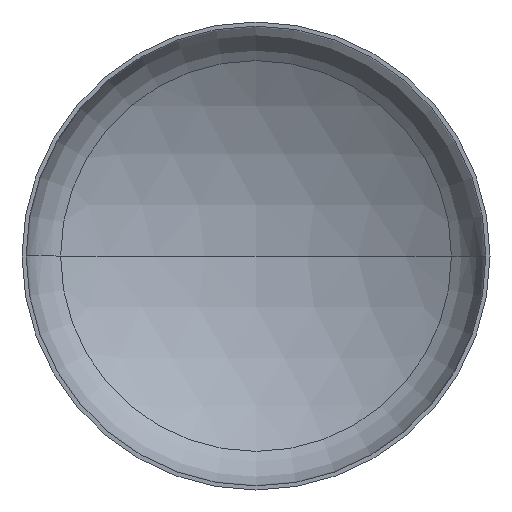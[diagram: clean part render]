
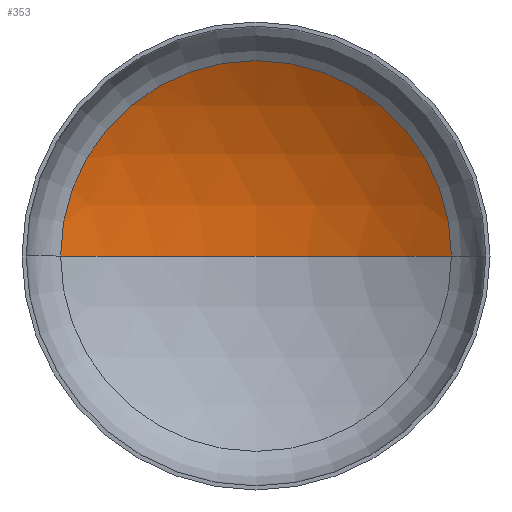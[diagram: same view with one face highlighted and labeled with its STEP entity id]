
A CAD part, front view. The second image highlights one B-rep face of the part: STEP entity #353.
In plain terms, the highlighted spherical face has radius 6000 mm.
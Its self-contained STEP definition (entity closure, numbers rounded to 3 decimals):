
#1 = AXIS2_PLACEMENT_3D ( 'NONE', #259, #283, #261 ) ;
#15 = VERTEX_POINT ( 'NONE', #195 ) ;
#43 = CARTESIAN_POINT ( 'NONE',  ( 0., -4012.576, 0. ) ) ;
#44 = ORIENTED_EDGE ( 'NONE', *, *, #167, .T. ) ;
#48 = ORIENTED_EDGE ( 'NONE', *, *, #170, .T. ) ;
#86 = VERTEX_POINT ( 'NONE', #218 ) ;
#97 = EDGE_LOOP ( 'NONE', ( #102, #48, #44 ) ) ;
#102 = ORIENTED_EDGE ( 'NONE', *, *, #172, .F. ) ;
#103 = VERTEX_POINT ( 'NONE', #156 ) ;
#112 = AXIS2_PLACEMENT_3D ( 'NONE', #252, #398, #278 ) ;
#113 = AXIS2_PLACEMENT_3D ( 'NONE', #43, #294, #126 ) ;
#119 = AXIS2_PLACEMENT_3D ( 'NONE', #229, #376, #250 ) ;
#126 = DIRECTION ( 'NONE',  ( -1., 0., 0. ) ) ;
#156 = CARTESIAN_POINT ( 'NONE',  ( -3131.889, 1105.165, 0. ) ) ;
#167 = EDGE_CURVE ( 'NONE', #86, #103, #247, .T. ) ;
#170 = EDGE_CURVE ( 'NONE', #15, #86, #179, .T. ) ;
#172 = EDGE_CURVE ( 'NONE', #15, #103, #244, .T. ) ;
#179 = CIRCLE ( 'NONE', #113, 6000. ) ;
#195 = CARTESIAN_POINT ( 'NONE',  ( 0., 1987.424, 0. ) ) ;
#218 = CARTESIAN_POINT ( 'NONE',  ( 3131.889, 1105.165, 0. ) ) ;
#229 = CARTESIAN_POINT ( 'NONE',  ( 0., 1105.165, 0. ) ) ;
#244 = CIRCLE ( 'NONE', #112, 6000. ) ;
#247 = CIRCLE ( 'NONE', #119, 3131.889 ) ;
#250 = DIRECTION ( 'NONE',  ( 1., 0., 0. ) ) ;
#252 = CARTESIAN_POINT ( 'NONE',  ( 0., -4012.576, 0. ) ) ;
#259 = CARTESIAN_POINT ( 'NONE',  ( 0., -4012.576, 0. ) ) ;
#261 = DIRECTION ( 'NONE',  ( -1., 0., 0. ) ) ;
#271 = SPHERICAL_SURFACE ( 'NONE', #1, 6000. ) ;
#278 = DIRECTION ( 'NONE',  ( 1., 0., 0. ) ) ;
#283 = DIRECTION ( 'NONE',  ( 0., 0., -1. ) ) ;
#294 = DIRECTION ( 'NONE',  ( 0., 0., -1. ) ) ;
#353 = ADVANCED_FACE ( 'NONE', ( #391 ), #271, .F. ) ;
#376 = DIRECTION ( 'NONE',  ( 0., -1., 0. ) ) ;
#391 = FACE_OUTER_BOUND ( 'NONE', #97, .T. ) ;
#398 = DIRECTION ( 'NONE',  ( 0., 0., 1. ) ) ;
